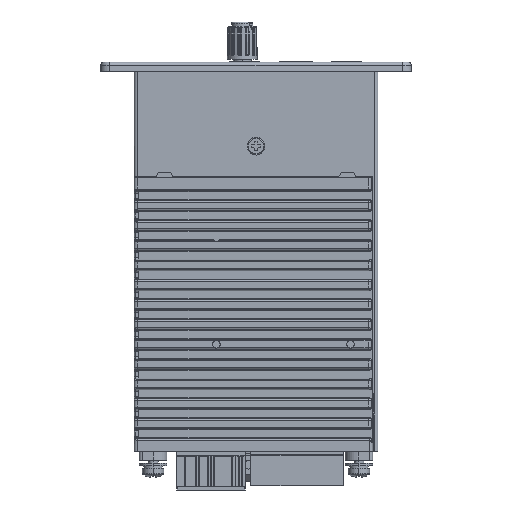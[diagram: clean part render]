
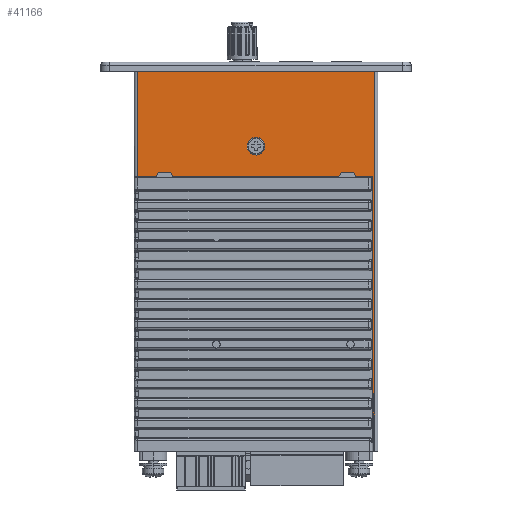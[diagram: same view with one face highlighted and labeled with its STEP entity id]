
A CAD part, left-side view. The second image highlights one B-rep face of the part: STEP entity #41166.
In plain terms, the highlighted planar face has unit normal (-1, 0, 0).
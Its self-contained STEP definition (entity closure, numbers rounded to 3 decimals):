
#1084 = CARTESIAN_POINT ( 'NONE',  ( -25.5, -38., 72.5 ) ) ;
#2254 = DIRECTION ( 'NONE',  ( 0., -1., 0. ) ) ;
#3475 = CARTESIAN_POINT ( 'NONE',  ( -25.5, 40., 72. ) ) ;
#5787 = DIRECTION ( 'NONE',  ( 0., -0.5, 0.866 ) ) ;
#6412 = EDGE_CURVE ( 'NONE', #94865, #175078, #109342, .T. ) ;
#7421 = CARTESIAN_POINT ( 'NONE',  ( -25.5, -39., 72. ) ) ;
#9558 = AXIS2_PLACEMENT_3D ( 'NONE', #30451, #120753, #125732 ) ;
#9801 = VERTEX_POINT ( 'NONE', #154664 ) ;
#10668 = ORIENTED_EDGE ( 'NONE', *, *, #48928, .T. ) ;
#10702 = EDGE_CURVE ( 'NONE', #17634, #63009, #98835, .T. ) ;
#10743 = LINE ( 'NONE', #27082, #216742 ) ;
#11187 = ORIENTED_EDGE ( 'NONE', *, *, #83994, .T. ) ;
#12757 = VECTOR ( 'NONE', #207121, 1000. ) ;
#14999 = LINE ( 'NONE', #1084, #147469 ) ;
#16658 = ORIENTED_EDGE ( 'NONE', *, *, #10702, .T. ) ;
#17634 = VERTEX_POINT ( 'NONE', #192011 ) ;
#18543 = VECTOR ( 'NONE', #135244, 1000. ) ;
#18753 = VERTEX_POINT ( 'NONE', #7421 ) ;
#18974 = PLANE ( 'NONE',  #181016 ) ;
#23615 = ORIENTED_EDGE ( 'NONE', *, *, #195758, .T. ) ;
#27082 = CARTESIAN_POINT ( 'NONE',  ( -25.5, 27.134, 37.5 ) ) ;
#30451 = CARTESIAN_POINT ( 'NONE',  ( -25.5, 0., 47.5 ) ) ;
#30453 = VECTOR ( 'NONE', #217631, 1000. ) ;
#31792 = EDGE_CURVE ( 'NONE', #218596, #194512, #119787, .T. ) ;
#33314 = CARTESIAN_POINT ( 'NONE',  ( -25.5, -28., 39. ) ) ;
#35241 = VERTEX_POINT ( 'NONE', #212077 ) ;
#35362 = DIRECTION ( 'NONE',  ( -1., 0., 0. ) ) ;
#38768 = CARTESIAN_POINT ( 'NONE',  ( -25.5, 32.866, 37.5 ) ) ;
#41166 = ADVANCED_FACE ( 'NONE', ( #149493, #114288 ), #18974, .T. ) ;
#41209 = EDGE_CURVE ( 'NONE', #175078, #35241, #228491, .T. ) ;
#43750 = CARTESIAN_POINT ( 'NONE',  ( -25.5, 39., 37.5 ) ) ;
#46276 = ORIENTED_EDGE ( 'NONE', *, *, #208943, .F. ) ;
#47846 = LINE ( 'NONE', #49093, #157844 ) ;
#48928 = EDGE_CURVE ( 'NONE', #124347, #218596, #131057, .T. ) ;
#49093 = CARTESIAN_POINT ( 'NONE',  ( -25.5, 40., 37.5 ) ) ;
#50145 = CARTESIAN_POINT ( 'NONE',  ( -25.5, 0., 47.5 ) ) ;
#54183 = CARTESIAN_POINT ( 'NONE',  ( -25.5, 40., -52.5 ) ) ;
#54281 = CARTESIAN_POINT ( 'NONE',  ( -25.5, -39., -52.5 ) ) ;
#55814 = DIRECTION ( 'NONE',  ( 0., -1., 0. ) ) ;
#56055 = DIRECTION ( 'NONE',  ( 0., -1., 0. ) ) ;
#56631 = CARTESIAN_POINT ( 'NONE',  ( -25.5, 32.866, 37.5 ) ) ;
#59966 = VECTOR ( 'NONE', #241251, 1000. ) ;
#63009 = VERTEX_POINT ( 'NONE', #209184 ) ;
#66030 = EDGE_CURVE ( 'NONE', #204857, #9801, #71087, .T. ) ;
#66162 = ORIENTED_EDGE ( 'NONE', *, *, #188376, .T. ) ;
#66845 = EDGE_LOOP ( 'NONE', ( #189527, #194783, #46276, #66162, #100622, #232407, #135775, #94077, #16658, #157809, #10668, #227595, #23615, #11187 ) ) ;
#68257 = CARTESIAN_POINT ( 'NONE',  ( -25.5, -38.122, 37.5 ) ) ;
#68752 = LINE ( 'NONE', #108839, #199849 ) ;
#69960 = VERTEX_POINT ( 'NONE', #141453 ) ;
#71087 = CIRCLE ( 'NONE', #231376, 2.95 ) ;
#75151 = VERTEX_POINT ( 'NONE', #120994 ) ;
#75294 = LINE ( 'NONE', #166980, #12757 ) ;
#76824 = CARTESIAN_POINT ( 'NONE',  ( -25.5, -32., 39. ) ) ;
#79245 = VECTOR ( 'NONE', #56055, 1000. ) ;
#83994 = EDGE_CURVE ( 'NONE', #205256, #75151, #14999, .T. ) ;
#84009 = DIRECTION ( 'NONE',  ( 0., -1., 0. ) ) ;
#88685 = EDGE_CURVE ( 'NONE', #176032, #17634, #10743, .T. ) ;
#91239 = DIRECTION ( 'NONE',  ( 0., -1., 0. ) ) ;
#94077 = ORIENTED_EDGE ( 'NONE', *, *, #88685, .T. ) ;
#94865 = VERTEX_POINT ( 'NONE', #43750 ) ;
#95165 = DIRECTION ( 'NONE',  ( 0., -0.003, -1. ) ) ;
#96912 = VERTEX_POINT ( 'NONE', #232931 ) ;
#98835 = LINE ( 'NONE', #214290, #18543 ) ;
#100198 = ORIENTED_EDGE ( 'NONE', *, *, #66030, .T. ) ;
#100622 = ORIENTED_EDGE ( 'NONE', *, *, #6412, .T. ) ;
#100959 = CARTESIAN_POINT ( 'NONE',  ( -25.5, -32.866, 37.5 ) ) ;
#103549 = DIRECTION ( 'NONE',  ( 0., -0.5, -0.866 ) ) ;
#105190 = CARTESIAN_POINT ( 'NONE',  ( -25.5, -2.95, 47.5 ) ) ;
#108839 = CARTESIAN_POINT ( 'NONE',  ( -25.5, 32., 39. ) ) ;
#109342 = LINE ( 'NONE', #128191, #165501 ) ;
#114288 = FACE_OUTER_BOUND ( 'NONE', #66845, .T. ) ;
#116377 = LINE ( 'NONE', #3475, #246033 ) ;
#119787 = LINE ( 'NONE', #100959, #30453 ) ;
#120753 = DIRECTION ( 'NONE',  ( 1., 0., 0. ) ) ;
#120994 = CARTESIAN_POINT ( 'NONE',  ( -25.5, -38.436, -52.5 ) ) ;
#123469 = EDGE_CURVE ( 'NONE', #9801, #204857, #225904, .T. ) ;
#124347 = VERTEX_POINT ( 'NONE', #158470 ) ;
#125732 = DIRECTION ( 'NONE',  ( 0., -1., 0. ) ) ;
#128191 = CARTESIAN_POINT ( 'NONE',  ( -25.5, 40., 37.5 ) ) ;
#128673 = EDGE_CURVE ( 'NONE', #63009, #124347, #178927, .T. ) ;
#131057 = LINE ( 'NONE', #33314, #174547 ) ;
#133105 = DIRECTION ( 'NONE',  ( 0., -0.5, 0.866 ) ) ;
#135244 = DIRECTION ( 'NONE',  ( 0., -1., 0. ) ) ;
#135775 = ORIENTED_EDGE ( 'NONE', *, *, #149668, .T. ) ;
#141453 = CARTESIAN_POINT ( 'NONE',  ( -25.5, -39., -52.5 ) ) ;
#142475 = CARTESIAN_POINT ( 'NONE',  ( -25.5, -27.134, 37.5 ) ) ;
#147014 = DIRECTION ( 'NONE',  ( 0., -1., 0. ) ) ;
#147469 = VECTOR ( 'NONE', #95165, 1000. ) ;
#149493 = FACE_BOUND ( 'NONE', #222463, .T. ) ;
#149668 = EDGE_CURVE ( 'NONE', #35241, #176032, #68752, .T. ) ;
#152934 = CARTESIAN_POINT ( 'NONE',  ( -25.5, 28., 39. ) ) ;
#154664 = CARTESIAN_POINT ( 'NONE',  ( -25.5, 2.95, 47.5 ) ) ;
#157809 = ORIENTED_EDGE ( 'NONE', *, *, #128673, .T. ) ;
#157844 = VECTOR ( 'NONE', #165733, 1000. ) ;
#158470 = CARTESIAN_POINT ( 'NONE',  ( -25.5, -28., 39. ) ) ;
#164749 = CARTESIAN_POINT ( 'NONE',  ( -25.5, -32.866, 37.5 ) ) ;
#164912 = VECTOR ( 'NONE', #133105, 1000. ) ;
#165501 = VECTOR ( 'NONE', #147014, 1000. ) ;
#165733 = DIRECTION ( 'NONE',  ( 0., -1., 0. ) ) ;
#166980 = CARTESIAN_POINT ( 'NONE',  ( -25.5, 39., -52.5 ) ) ;
#169665 = LINE ( 'NONE', #54281, #59966 ) ;
#171441 = LINE ( 'NONE', #191532, #79245 ) ;
#174547 = VECTOR ( 'NONE', #55814, 1000. ) ;
#175078 = VERTEX_POINT ( 'NONE', #38768 ) ;
#176032 = VERTEX_POINT ( 'NONE', #152934 ) ;
#178927 = LINE ( 'NONE', #142475, #223149 ) ;
#181016 = AXIS2_PLACEMENT_3D ( 'NONE', #54183, #35362, #210932 ) ;
#188376 = EDGE_CURVE ( 'NONE', #96912, #94865, #75294, .T. ) ;
#189527 = ORIENTED_EDGE ( 'NONE', *, *, #214627, .T. ) ;
#191532 = CARTESIAN_POINT ( 'NONE',  ( -25.5, 40., -52.5 ) ) ;
#192011 = CARTESIAN_POINT ( 'NONE',  ( -25.5, 27.134, 37.5 ) ) ;
#194512 = VERTEX_POINT ( 'NONE', #164749 ) ;
#194783 = ORIENTED_EDGE ( 'NONE', *, *, #248158, .T. ) ;
#195758 = EDGE_CURVE ( 'NONE', #194512, #205256, #47846, .T. ) ;
#198252 = DIRECTION ( 'NONE',  ( 1., 0., 0. ) ) ;
#199849 = VECTOR ( 'NONE', #91239, 1000. ) ;
#204857 = VERTEX_POINT ( 'NONE', #105190 ) ;
#205256 = VERTEX_POINT ( 'NONE', #68257 ) ;
#207121 = DIRECTION ( 'NONE',  ( 0., 0., -1. ) ) ;
#207428 = ORIENTED_EDGE ( 'NONE', *, *, #123469, .T. ) ;
#208943 = EDGE_CURVE ( 'NONE', #96912, #18753, #116377, .T. ) ;
#209184 = CARTESIAN_POINT ( 'NONE',  ( -25.5, -27.134, 37.5 ) ) ;
#210932 = DIRECTION ( 'NONE',  ( 0., -1., 0. ) ) ;
#212077 = CARTESIAN_POINT ( 'NONE',  ( -25.5, 32., 39. ) ) ;
#214290 = CARTESIAN_POINT ( 'NONE',  ( -25.5, 40., 37.5 ) ) ;
#214627 = EDGE_CURVE ( 'NONE', #75151, #69960, #171441, .T. ) ;
#216742 = VECTOR ( 'NONE', #103549, 1000. ) ;
#217631 = DIRECTION ( 'NONE',  ( 0., -0.5, -0.866 ) ) ;
#218596 = VERTEX_POINT ( 'NONE', #76824 ) ;
#222463 = EDGE_LOOP ( 'NONE', ( #100198, #207428 ) ) ;
#223149 = VECTOR ( 'NONE', #5787, 1000. ) ;
#225904 = CIRCLE ( 'NONE', #9558, 2.95 ) ;
#227595 = ORIENTED_EDGE ( 'NONE', *, *, #31792, .T. ) ;
#228491 = LINE ( 'NONE', #56631, #164912 ) ;
#231376 = AXIS2_PLACEMENT_3D ( 'NONE', #50145, #198252, #84009 ) ;
#232407 = ORIENTED_EDGE ( 'NONE', *, *, #41209, .T. ) ;
#232931 = CARTESIAN_POINT ( 'NONE',  ( -25.5, 39., 72. ) ) ;
#241251 = DIRECTION ( 'NONE',  ( 0., 0., 1. ) ) ;
#246033 = VECTOR ( 'NONE', #2254, 1000. ) ;
#248158 = EDGE_CURVE ( 'NONE', #69960, #18753, #169665, .T. ) ;
